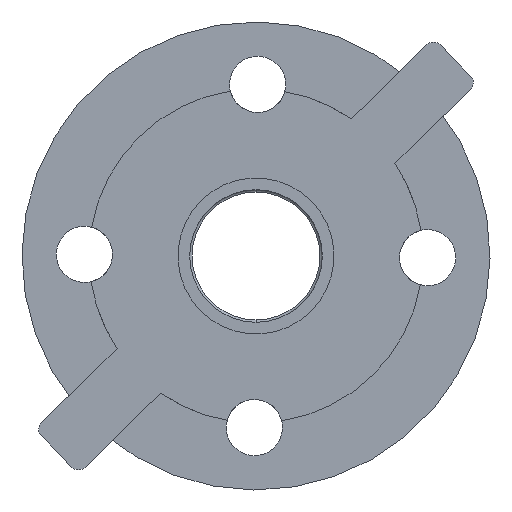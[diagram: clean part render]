
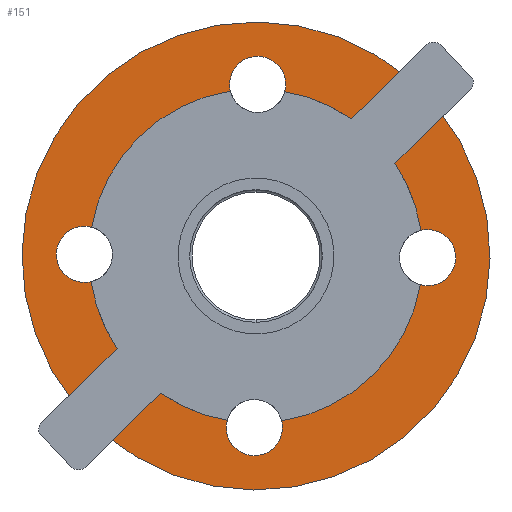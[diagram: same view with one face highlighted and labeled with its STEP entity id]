
A CAD part, front view. The second image highlights one B-rep face of the part: STEP entity #151.
In plain terms, the highlighted planar face has unit normal (0, -1, 0).
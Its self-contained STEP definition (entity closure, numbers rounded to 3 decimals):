
#16 = CIRCLE ( 'NONE', #19, 9. ) ;
#19 = AXIS2_PLACEMENT_3D ( 'NONE', #1895, #1896, #1897 ) ;
#131 = EDGE_CURVE ( 'NONE', #625, #974, #1492, .T. ) ;
#133 = EDGE_CURVE ( 'NONE', #978, #2129, #1502, .T. ) ;
#139 = EDGE_CURVE ( 'NONE', #2099, #626, #554, .T. ) ;
#140 = EDGE_CURVE ( 'NONE', #2100, #628, #559, .T. ) ;
#141 = EDGE_CURVE ( 'NONE', #629, #631, #561, .T. ) ;
#142 = EDGE_CURVE ( 'NONE', #627, #630, #563, .T. ) ;
#151 = ADVANCED_FACE ( 'NONE', ( #1318, #1313, #1321, #1323, #1317, #1319 ), #1325, .T. ) ;
#256 = EDGE_CURVE ( 'NONE', #974, #625, #1790, .T. ) ;
#265 = EDGE_CURVE ( 'NONE', #2129, #978, #1795, .T. ) ;
#299 = EDGE_CURVE ( 'NONE', #631, #629, #16, .T. ) ;
#554 = CIRCLE ( 'NONE', #560, 9. ) ;
#559 = CIRCLE ( 'NONE', #562, 9. ) ;
#560 = AXIS2_PLACEMENT_3D ( 'NONE', #1262, #1263, #1264 ) ;
#561 = CIRCLE ( 'NONE', #564, 9. ) ;
#562 = AXIS2_PLACEMENT_3D ( 'NONE', #1266, #1267, #1268 ) ;
#563 = CIRCLE ( 'NONE', #566, 9. ) ;
#564 = AXIS2_PLACEMENT_3D ( 'NONE', #1271, #1272, #1273 ) ;
#566 = AXIS2_PLACEMENT_3D ( 'NONE', #1275, #1276, #1277 ) ;
#581 = AXIS2_PLACEMENT_3D ( 'NONE', #1322, #1326, #1327 ) ;
#625 = VERTEX_POINT ( 'NONE', #1923 ) ;
#626 = VERTEX_POINT ( 'NONE', #1929 ) ;
#627 = VERTEX_POINT ( 'NONE', #1922 ) ;
#628 = VERTEX_POINT ( 'NONE', #1930 ) ;
#629 = VERTEX_POINT ( 'NONE', #1931 ) ;
#630 = VERTEX_POINT ( 'NONE', #1932 ) ;
#631 = VERTEX_POINT ( 'NONE', #1933 ) ;
#907 = CIRCLE ( 'NONE', #910, 9. ) ;
#910 = AXIS2_PLACEMENT_3D ( 'NONE', #2374, #2375, #2376 ) ;
#933 = CIRCLE ( 'NONE', #934, 9. ) ;
#934 = AXIS2_PLACEMENT_3D ( 'NONE', #2062, #2063, #2064 ) ;
#962 = CIRCLE ( 'NONE', #965, 9. ) ;
#965 = AXIS2_PLACEMENT_3D ( 'NONE', #2350, #2351, #2352 ) ;
#974 = VERTEX_POINT ( 'NONE', #1950 ) ;
#978 = VERTEX_POINT ( 'NONE', #1959 ) ;
#1015 = AXIS2_PLACEMENT_3D ( 'NONE', #1757, #1758, #1759 ) ;
#1060 = ORIENTED_EDGE ( 'NONE', *, *, #133, .F. ) ;
#1061 = ORIENTED_EDGE ( 'NONE', *, *, #265, .F. ) ;
#1062 = ORIENTED_EDGE ( 'NONE', *, *, #141, .F. ) ;
#1063 = ORIENTED_EDGE ( 'NONE', *, *, #299, .F. ) ;
#1064 = ORIENTED_EDGE ( 'NONE', *, *, #142, .F. ) ;
#1065 = ORIENTED_EDGE ( 'NONE', *, *, #2249, .F. ) ;
#1066 = ORIENTED_EDGE ( 'NONE', *, *, #140, .F. ) ;
#1067 = ORIENTED_EDGE ( 'NONE', *, *, #2266, .F. ) ;
#1068 = ORIENTED_EDGE ( 'NONE', *, *, #139, .F. ) ;
#1069 = ORIENTED_EDGE ( 'NONE', *, *, #2274, .F. ) ;
#1070 = ORIENTED_EDGE ( 'NONE', *, *, #131, .T. ) ;
#1180 = EDGE_LOOP ( 'NONE', ( #1070, #2287 ) ) ;
#1181 = EDGE_LOOP ( 'NONE', ( #1066, #1067 ) ) ;
#1182 = EDGE_LOOP ( 'NONE', ( #1062, #1063 ) ) ;
#1183 = EDGE_LOOP ( 'NONE', ( #1068, #1069 ) ) ;
#1186 = EDGE_LOOP ( 'NONE', ( #1060, #1061 ) ) ;
#1201 = EDGE_LOOP ( 'NONE', ( #1064, #1065 ) ) ;
#1239 = CARTESIAN_POINT ( 'NONE',  ( 5.124, -23.89, -3.356 ) ) ;
#1240 = DIRECTION ( 'NONE',  ( 0., -1., 0. ) ) ;
#1241 = DIRECTION ( 'NONE',  ( 1., 0., -0.01 ) ) ;
#1245 = CARTESIAN_POINT ( 'NONE',  ( 5.124, -23.89, -3.356 ) ) ;
#1246 = DIRECTION ( 'NONE',  ( 0., -1., 0. ) ) ;
#1247 = DIRECTION ( 'NONE',  ( 1., 0., -0.01 ) ) ;
#1262 = CARTESIAN_POINT ( 'NONE',  ( 5.657, -23.89, 51.641 ) ) ;
#1263 = DIRECTION ( 'NONE',  ( 0., -1., 0. ) ) ;
#1264 = DIRECTION ( 'NONE',  ( 1., 0., -0.01 ) ) ;
#1266 = CARTESIAN_POINT ( 'NONE',  ( 60.122, -23.89, -3.889 ) ) ;
#1267 = DIRECTION ( 'NONE',  ( 0., -1., 0. ) ) ;
#1268 = DIRECTION ( 'NONE',  ( -0.01, 0., -1. ) ) ;
#1271 = CARTESIAN_POINT ( 'NONE',  ( -49.873, -23.89, -2.824 ) ) ;
#1272 = DIRECTION ( 'NONE',  ( 0., -1., 0. ) ) ;
#1273 = DIRECTION ( 'NONE',  ( 0.01, 0., 1. ) ) ;
#1275 = CARTESIAN_POINT ( 'NONE',  ( 4.592, -23.89, -58.354 ) ) ;
#1276 = DIRECTION ( 'NONE',  ( 0., -1., 0. ) ) ;
#1277 = DIRECTION ( 'NONE',  ( -1., 0., 0.01 ) ) ;
#1313 = FACE_BOUND ( 'NONE', #1182, .T. ) ;
#1317 = FACE_BOUND ( 'NONE', #1183, .T. ) ;
#1318 = FACE_BOUND ( 'NONE', #1186, .T. ) ;
#1319 = FACE_OUTER_BOUND ( 'NONE', #1180, .T. ) ;
#1321 = FACE_BOUND ( 'NONE', #1201, .T. ) ;
#1322 = CARTESIAN_POINT ( 'NONE',  ( 5.124, -23.89, -3.356 ) ) ;
#1323 = FACE_BOUND ( 'NONE', #1181, .T. ) ;
#1325 = PLANE ( 'NONE',  #581 ) ;
#1326 = DIRECTION ( 'NONE',  ( 0., -1., 0. ) ) ;
#1327 = DIRECTION ( 'NONE',  ( 1., 0., -0.01 ) ) ;
#1492 = CIRCLE ( 'NONE', #1503, 75. ) ;
#1502 = CIRCLE ( 'NONE', #1507, 38. ) ;
#1503 = AXIS2_PLACEMENT_3D ( 'NONE', #1239, #1240, #1241 ) ;
#1507 = AXIS2_PLACEMENT_3D ( 'NONE', #1245, #1246, #1247 ) ;
#1731 = CARTESIAN_POINT ( 'NONE',  ( 5.124, -23.89, -3.356 ) ) ;
#1732 = DIRECTION ( 'NONE',  ( 0., -1., 0. ) ) ;
#1733 = DIRECTION ( 'NONE',  ( 1., 0., -0.01 ) ) ;
#1757 = CARTESIAN_POINT ( 'NONE',  ( 5.124, -23.89, -3.356 ) ) ;
#1758 = DIRECTION ( 'NONE',  ( 0., -1., 0. ) ) ;
#1759 = DIRECTION ( 'NONE',  ( 1., 0., -0.01 ) ) ;
#1790 = CIRCLE ( 'NONE', #1793, 75. ) ;
#1793 = AXIS2_PLACEMENT_3D ( 'NONE', #1731, #1732, #1733 ) ;
#1795 = CIRCLE ( 'NONE', #1015, 38. ) ;
#1895 = CARTESIAN_POINT ( 'NONE',  ( -49.873, -23.89, -2.824 ) ) ;
#1896 = DIRECTION ( 'NONE',  ( 0., -1., 0. ) ) ;
#1897 = DIRECTION ( 'NONE',  ( 0.01, 0., 1. ) ) ;
#1922 = CARTESIAN_POINT ( 'NONE',  ( 13.591, -23.89, -58.441 ) ) ;
#1923 = CARTESIAN_POINT ( 'NONE',  ( -69.872, -23.89, -2.63 ) ) ;
#1929 = CARTESIAN_POINT ( 'NONE',  ( -3.343, -23.89, 51.728 ) ) ;
#1930 = CARTESIAN_POINT ( 'NONE',  ( 51.122, -23.89, -3.802 ) ) ;
#1931 = CARTESIAN_POINT ( 'NONE',  ( -40.873, -23.89, -2.911 ) ) ;
#1932 = CARTESIAN_POINT ( 'NONE',  ( -4.408, -23.89, -58.267 ) ) ;
#1933 = CARTESIAN_POINT ( 'NONE',  ( -58.873, -23.89, -2.737 ) ) ;
#1950 = CARTESIAN_POINT ( 'NONE',  ( 80.121, -23.89, -4.083 ) ) ;
#1959 = CARTESIAN_POINT ( 'NONE',  ( 43.123, -23.89, -3.724 ) ) ;
#1999 = CARTESIAN_POINT ( 'NONE',  ( 14.657, -23.89, 51.554 ) ) ;
#2000 = CARTESIAN_POINT ( 'NONE',  ( 69.121, -23.89, -3.976 ) ) ;
#2029 = CARTESIAN_POINT ( 'NONE',  ( -32.874, -23.89, -2.988 ) ) ;
#2062 = CARTESIAN_POINT ( 'NONE',  ( 4.592, -23.89, -58.354 ) ) ;
#2063 = DIRECTION ( 'NONE',  ( 0., -1., 0. ) ) ;
#2064 = DIRECTION ( 'NONE',  ( -1., 0., 0.01 ) ) ;
#2099 = VERTEX_POINT ( 'NONE', #1999 ) ;
#2100 = VERTEX_POINT ( 'NONE', #2000 ) ;
#2129 = VERTEX_POINT ( 'NONE', #2029 ) ;
#2249 = EDGE_CURVE ( 'NONE', #630, #627, #933, .T. ) ;
#2266 = EDGE_CURVE ( 'NONE', #628, #2100, #962, .T. ) ;
#2274 = EDGE_CURVE ( 'NONE', #626, #2099, #907, .T. ) ;
#2287 = ORIENTED_EDGE ( 'NONE', *, *, #256, .T. ) ;
#2350 = CARTESIAN_POINT ( 'NONE',  ( 60.122, -23.89, -3.889 ) ) ;
#2351 = DIRECTION ( 'NONE',  ( 0., -1., 0. ) ) ;
#2352 = DIRECTION ( 'NONE',  ( -0.01, 0., -1. ) ) ;
#2374 = CARTESIAN_POINT ( 'NONE',  ( 5.657, -23.89, 51.641 ) ) ;
#2375 = DIRECTION ( 'NONE',  ( 0., -1., 0. ) ) ;
#2376 = DIRECTION ( 'NONE',  ( 1., 0., -0.01 ) ) ;
